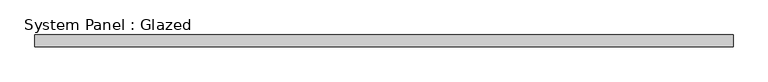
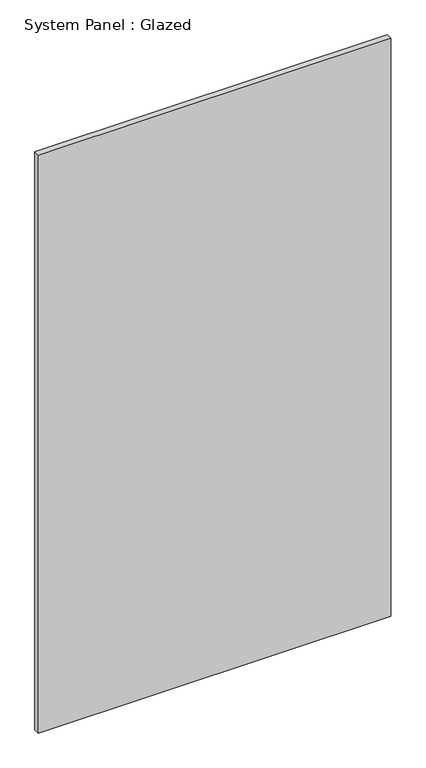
"""IFC4 building model written with IfcOpenShell, lengths in millimetres: plate geometry, System Panel : Glazed."""

from ifc_helpers import new_model, si_unit, origin, origin_with_axes, place, context, project, spatial, polyline, outline, extrude, source, transform, mapped, element, save


def system_panel_glazed_aa5f2bbc(model_context):
    return source(origin(), model_context, "Body", "SweptSolid", [
        extrude(outline(polyline([(742.4954406, 19.05), (-742.4954406, 19.05), (-742.4954406, 44.45), (742.4954406, 44.45), (742.4954406, 19.05)])), origin_with_axes(), (0.0, 0.0, 1.0), 2573.8666667),
    ])


if __name__ == "__main__":
    model = new_model("IFC4")
    model_context = context("Model", 3, world=origin())
    ifc_project = project(units=[si_unit("LENGTHUNIT", "METRE", prefix="MILLI")], contexts=[model_context])
    site = spatial("IfcSite", under=ifc_project)
    building = spatial("IfcBuilding", under=site)
    placement = place(None, origin())
    system_panel_glazed_shape = system_panel_glazed_aa5f2bbc(model_context)
    element("IfcPlate", 1, ObjectType="System Panel : Glazed", at=placement, inside=building, context=model_context, shape_type="MappedRepresentation", body=[
        mapped(system_panel_glazed_shape, transform((0.0, 0.0, 0.0), x_axis=(1.0, 0.0, 0.0), y_axis=(0.0, 1.0, 0.0), z_axis=(0.0, 0.0, 1.0))),
    ])
    save(model, "model.ifc")
